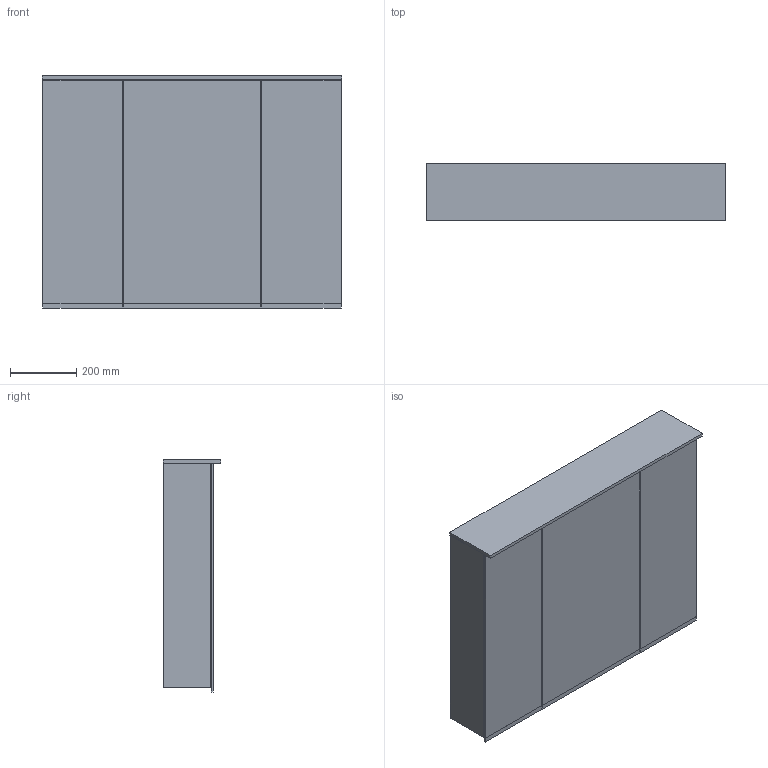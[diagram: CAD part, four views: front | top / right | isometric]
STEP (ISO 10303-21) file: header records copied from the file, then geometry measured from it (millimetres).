
FILE_DESCRIPTION(/* description */ (''),/* implementation_level */ '2;1');
FILE_NAME(/* name */ 'C:\Planerdaten\Export PLA\500.594.00.1\stp\500594.stp',/* time_stamp */ '2020-01-13T15:49:40+01:00',/* author */ ('JANAN'),/* organization */ (''),/* preprocessor_version */ 'ST-DEVELOPER v16.13',/* originating_system */ 'Autodesk Inventor 2018',/* authorisation */ '');
FILE_SCHEMA (('AUTOMOTIVE_DESIGN { 1 0 10303 214 3 1 1 }'));
Length unit declared in the file: millimetre
Products named in the file (1): SpglSchrk Ge+OptP B90 m/Bel 3-Tür
Bounding box: 902 x 172 x 699 mm (x, y, z)
Volume: 20180688 mm3; surface area: 3838608.4 mm2
Topology: 4 solids, 4 shells, 75 faces, 198 edges, 132 vertices
Faces by surface type: plane 75
Entity records: 2398 total; most frequent: CARTESIAN_POINT 406, ORIENTED_EDGE 396, DIRECTION 350, LINE 198, VECTOR 198, EDGE_CURVE 198, VERTEX_POINT 132, EDGE_LOOP 80
